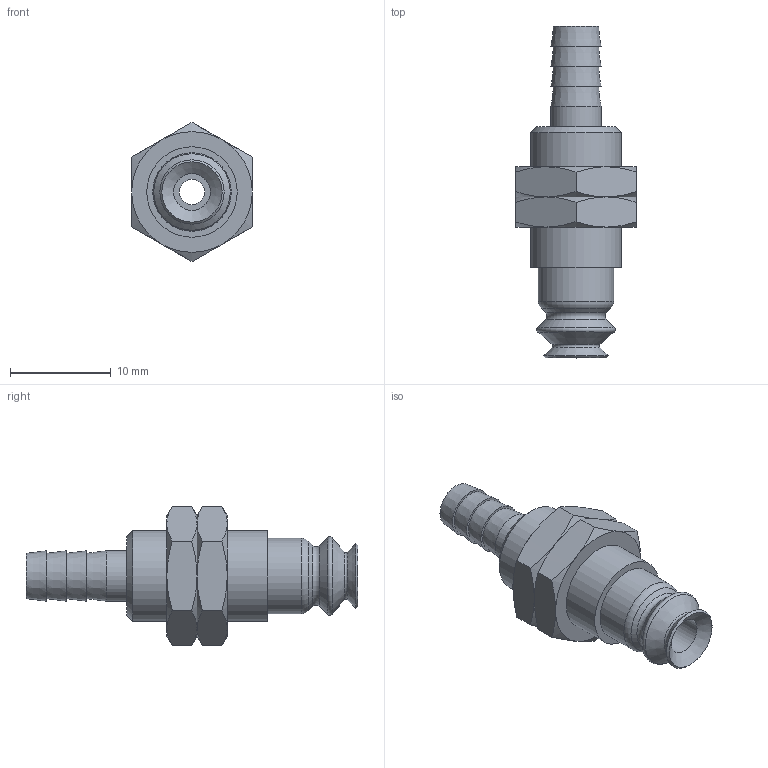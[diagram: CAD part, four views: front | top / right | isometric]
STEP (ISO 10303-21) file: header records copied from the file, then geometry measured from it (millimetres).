
FILE_DESCRIPTION(('STEP AP203'),'1');
FILE_NAME('.stp','2025-04-23T02:23:14',(' '),(' '),'Spatial InterOp 3D',' ',' ');
FILE_SCHEMA(('CONFIG_CONTROL_DESIGN'));
Length unit declared in the file: millimetre
Products named in the file (4): BBPJTK-6-※; NUT-6-PJ_K; PJTK-6; BPJG-6-※
Assembly tree (4 placements, depth 2):
  BBPJTK-6-※
    NUT-6-PJ_K  x2
    PJTK-6
    BPJG-6-※
Bounding box: 12 x 33 x 13.86 mm (x, y, z)
Volume: 1624.6 mm3; surface area: 2025.6 mm2
Topology: 4 solids, 4 shells, 88 faces, 181 edges, 107 vertices
Faces by surface type: cone 40, plane 26, cylinder 11, torus 11
Full cylindrical faces by diameter (mm): 2.5 x1, 3.64 x1, 4 x2, 5 x1, 6 x2, 7.5 x1, 7.917 x2, 9 x1
Entity records: 1844 total; most frequent: CARTESIAN_POINT 468, DIRECTION 262, ORIENTED_EDGE 176, AXIS2_PLACEMENT_3D 128, EDGE_LOOP 112, EDGE_CURVE 88, FACE_OUTER_BOUND 86, VERTEX_POINT 70
